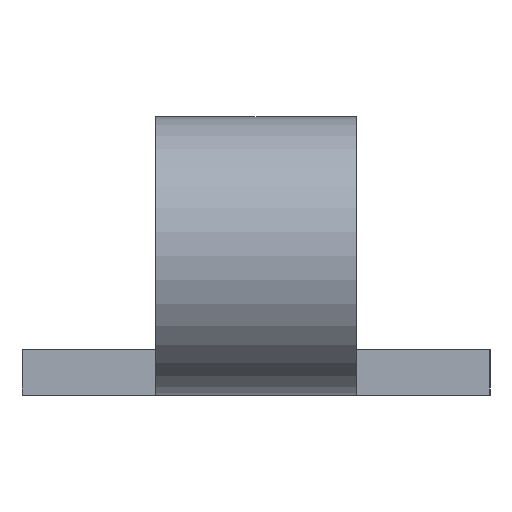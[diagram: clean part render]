
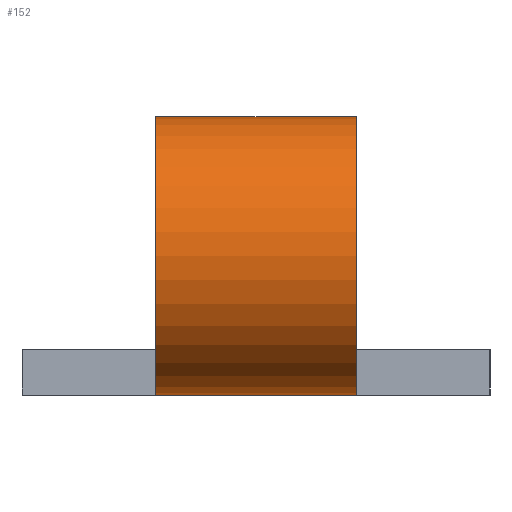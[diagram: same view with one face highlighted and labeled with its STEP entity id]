
A CAD part, left-side view. The second image highlights one B-rep face of the part: STEP entity #152.
In plain terms, the highlighted cylindrical face has radius 5.2 mm (diameter 10.4 mm), a partial arc.
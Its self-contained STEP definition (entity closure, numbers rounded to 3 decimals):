
#47 = LINE ( 'NONE', #804, #356 ) ;
#61 = DIRECTION ( 'NONE',  ( 0., -1., 0. ) ) ;
#73 = EDGE_CURVE ( 'NONE', #636, #407, #146, .T. ) ;
#83 = EDGE_CURVE ( 'NONE', #815, #820, #580, .T. ) ;
#103 = CARTESIAN_POINT ( 'NONE',  ( -12.658, -3.75, 7.483 ) ) ;
#139 = CARTESIAN_POINT ( 'NONE',  ( -12.658, 3.75, 7.483 ) ) ;
#146 = CIRCLE ( 'NONE', #566, 5.2 ) ;
#152 = ADVANCED_FACE ( 'NONE', ( #358 ), #353, .T. ) ;
#195 = ORIENTED_EDGE ( 'NONE', *, *, #73, .F. ) ;
#220 = VECTOR ( 'NONE', #253, 1000. ) ;
#237 = CARTESIAN_POINT ( 'NONE',  ( -16., 3.75, -1.7 ) ) ;
#253 = DIRECTION ( 'NONE',  ( 0., 1., 0. ) ) ;
#278 = EDGE_CURVE ( 'NONE', #636, #820, #47, .T. ) ;
#305 = ORIENTED_EDGE ( 'NONE', *, *, #278, .T. ) ;
#322 = AXIS2_PLACEMENT_3D ( 'NONE', #800, #723, #637 ) ;
#353 = CYLINDRICAL_SURFACE ( 'NONE', #322, 5.2 ) ;
#354 = CARTESIAN_POINT ( 'NONE',  ( -12.658, 0., 7.483 ) ) ;
#356 = VECTOR ( 'NONE', #728, 1000. ) ;
#358 = FACE_OUTER_BOUND ( 'NONE', #522, .T. ) ;
#360 = DIRECTION ( 'NONE',  ( 1., 0., 0. ) ) ;
#407 = VERTEX_POINT ( 'NONE', #139 ) ;
#428 = LINE ( 'NONE', #354, #220 ) ;
#432 = DIRECTION ( 'NONE',  ( 0., 1., 0. ) ) ;
#513 = CARTESIAN_POINT ( 'NONE',  ( -16., 3.75, 3.5 ) ) ;
#522 = EDGE_LOOP ( 'NONE', ( #195, #305, #710, #759 ) ) ;
#566 = AXIS2_PLACEMENT_3D ( 'NONE', #513, #432, #360 ) ;
#580 = CIRCLE ( 'NONE', #588, 5.2 ) ;
#588 = AXIS2_PLACEMENT_3D ( 'NONE', #760, #61, #812 ) ;
#595 = EDGE_CURVE ( 'NONE', #815, #407, #428, .T. ) ;
#636 = VERTEX_POINT ( 'NONE', #237 ) ;
#637 = DIRECTION ( 'NONE',  ( 0.643, 0., 0.766 ) ) ;
#710 = ORIENTED_EDGE ( 'NONE', *, *, #83, .F. ) ;
#723 = DIRECTION ( 'NONE',  ( 0., -1., 0. ) ) ;
#728 = DIRECTION ( 'NONE',  ( 0., -1., 0. ) ) ;
#759 = ORIENTED_EDGE ( 'NONE', *, *, #595, .T. ) ;
#760 = CARTESIAN_POINT ( 'NONE',  ( -16., -3.75, 3.5 ) ) ;
#774 = CARTESIAN_POINT ( 'NONE',  ( -16., -3.75, -1.7 ) ) ;
#800 = CARTESIAN_POINT ( 'NONE',  ( -16., -8.75, 3.5 ) ) ;
#804 = CARTESIAN_POINT ( 'NONE',  ( -16., 8.75, -1.7 ) ) ;
#812 = DIRECTION ( 'NONE',  ( -1., 0., 0. ) ) ;
#815 = VERTEX_POINT ( 'NONE', #103 ) ;
#820 = VERTEX_POINT ( 'NONE', #774 ) ;
